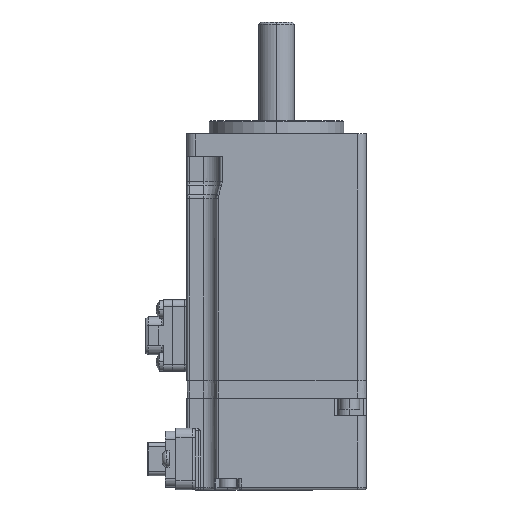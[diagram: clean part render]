
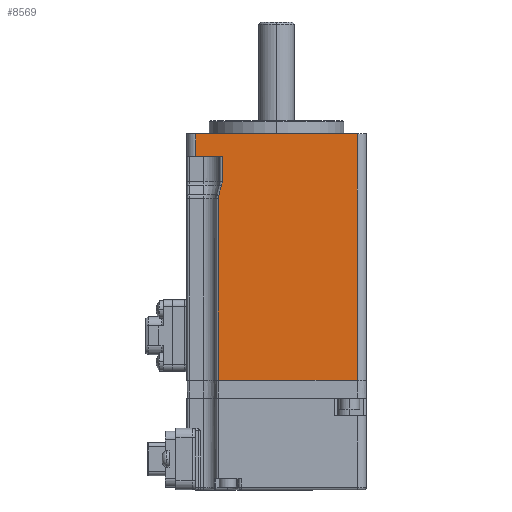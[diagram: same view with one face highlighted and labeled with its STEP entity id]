
A CAD part, top view. The second image highlights one B-rep face of the part: STEP entity #8569.
In plain terms, the highlighted planar face has unit normal (0, 0, 1).
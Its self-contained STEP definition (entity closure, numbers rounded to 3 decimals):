
#257 = VERTEX_POINT ( 'NONE', #25283 ) ;
#404 = DIRECTION ( 'NONE',  ( 0., 0., 1. ) ) ;
#775 = CARTESIAN_POINT ( 'NONE',  ( -15.663, 44.412, 20. ) ) ;
#1084 = VERTEX_POINT ( 'NONE', #19523 ) ;
#1114 = EDGE_CURVE ( 'NONE', #21793, #18379, #3818, .T. ) ;
#1160 = DIRECTION ( 'NONE',  ( 0., 0., -1. ) ) ;
#1333 = EDGE_CURVE ( 'NONE', #25282, #21793, #11150, .T. ) ;
#1349 = CARTESIAN_POINT ( 'NONE',  ( -13., 58., 20. ) ) ;
#1576 = EDGE_CURVE ( 'NONE', #3487, #8280, #22182, .T. ) ;
#2234 = CARTESIAN_POINT ( 'NONE',  ( -8.935, 55.462, 20. ) ) ;
#2256 = VERTEX_POINT ( 'NONE', #5913 ) ;
#2361 = DIRECTION ( 'NONE',  ( -0.27, -0.963, 0. ) ) ;
#2586 = DIRECTION ( 'NONE',  ( -1., 0., 0. ) ) ;
#3168 = VECTOR ( 'NONE', #6022, 1000. ) ;
#3487 = VERTEX_POINT ( 'NONE', #14642 ) ;
#3673 = EDGE_CURVE ( 'NONE', #19776, #1084, #4173, .T. ) ;
#3818 = LINE ( 'NONE', #5630, #20450 ) ;
#4147 = DIRECTION ( 'NONE',  ( -1., 0., 0. ) ) ;
#4173 = LINE ( 'NONE', #2234, #9915 ) ;
#4390 = LINE ( 'NONE', #14052, #9370 ) ;
#5298 = EDGE_CURVE ( 'NONE', #2256, #3487, #23959, .T. ) ;
#5630 = CARTESIAN_POINT ( 'NONE',  ( -18., 0., 20. ) ) ;
#5913 = CARTESIAN_POINT ( 'NONE',  ( 18., 55., 20. ) ) ;
#6022 = DIRECTION ( 'NONE',  ( 0., -1., 0. ) ) ;
#6265 = ORIENTED_EDGE ( 'NONE', *, *, #12629, .T. ) ;
#6545 = ORIENTED_EDGE ( 'NONE', *, *, #1114, .T. ) ;
#7081 = DIRECTION ( 'NONE',  ( -1., 0., 0. ) ) ;
#7148 = CARTESIAN_POINT ( 'NONE',  ( -18., 58., 20. ) ) ;
#7278 = DIRECTION ( 'NONE',  ( 0., 0., -1. ) ) ;
#7280 = DIRECTION ( 'NONE',  ( 0., -1., 0. ) ) ;
#7585 = LINE ( 'NONE', #25218, #3168 ) ;
#7702 = CIRCLE ( 'NONE', #22066, 3.5 ) ;
#7981 = CARTESIAN_POINT ( 'NONE',  ( -13., 0., 20. ) ) ;
#8271 = CARTESIAN_POINT ( 'NONE',  ( -18., 55., 20. ) ) ;
#8280 = VERTEX_POINT ( 'NONE', #9998 ) ;
#8569 = ADVANCED_FACE ( 'NONE', ( #15260 ), #21039, .F. ) ;
#8987 = VECTOR ( 'NONE', #7280, 1000. ) ;
#9370 = VECTOR ( 'NONE', #12256, 1000. ) ;
#9915 = VECTOR ( 'NONE', #2361, 1000. ) ;
#9995 = DIRECTION ( 'NONE',  ( 1., 0., 0. ) ) ;
#9998 = CARTESIAN_POINT ( 'NONE',  ( -18., 50., 20. ) ) ;
#10100 = ORIENTED_EDGE ( 'NONE', *, *, #3673, .T. ) ;
#10158 = CARTESIAN_POINT ( 'NONE',  ( -12.293, 43.468, 20. ) ) ;
#10365 = ORIENTED_EDGE ( 'NONE', *, *, #24354, .T. ) ;
#10895 = CARTESIAN_POINT ( 'NONE',  ( -12.163, 44.412, 20. ) ) ;
#11150 = LINE ( 'NONE', #1349, #8987 ) ;
#11151 = EDGE_CURVE ( 'NONE', #2256, #18379, #7585, .T. ) ;
#11427 = ORIENTED_EDGE ( 'NONE', *, *, #5298, .T. ) ;
#12256 = DIRECTION ( 'NONE',  ( 0., -1., 0. ) ) ;
#12629 = EDGE_CURVE ( 'NONE', #12928, #19776, #7702, .T. ) ;
#12921 = ORIENTED_EDGE ( 'NONE', *, *, #11151, .F. ) ;
#12928 = VERTEX_POINT ( 'NONE', #10895 ) ;
#14052 = CARTESIAN_POINT ( 'NONE',  ( -12.163, 44.412, 20. ) ) ;
#14210 = CARTESIAN_POINT ( 'NONE',  ( -18., 58., 20. ) ) ;
#14642 = CARTESIAN_POINT ( 'NONE',  ( -18., 55., 20. ) ) ;
#14760 = CARTESIAN_POINT ( 'NONE',  ( -13., 40.6, 20. ) ) ;
#14815 = CARTESIAN_POINT ( 'NONE',  ( 18., 0., 20. ) ) ;
#15260 = FACE_OUTER_BOUND ( 'NONE', #21301, .T. ) ;
#16565 = VECTOR ( 'NONE', #4147, 1000. ) ;
#16734 = ORIENTED_EDGE ( 'NONE', *, *, #18945, .T. ) ;
#17839 = CARTESIAN_POINT ( 'NONE',  ( -18., 50., 20. ) ) ;
#18051 = CARTESIAN_POINT ( 'NONE',  ( -10.5, 40.6, 20. ) ) ;
#18379 = VERTEX_POINT ( 'NONE', #14815 ) ;
#18945 = EDGE_CURVE ( 'NONE', #8280, #257, #22207, .T. ) ;
#19227 = VECTOR ( 'NONE', #24108, 1000. ) ;
#19523 = CARTESIAN_POINT ( 'NONE',  ( -12.907, 41.274, 20. ) ) ;
#19694 = AXIS2_PLACEMENT_3D ( 'NONE', #18051, #404, #2586 ) ;
#19776 = VERTEX_POINT ( 'NONE', #10158 ) ;
#20255 = ORIENTED_EDGE ( 'NONE', *, *, #1333, .T. ) ;
#20450 = VECTOR ( 'NONE', #25450, 1000. ) ;
#21008 = ORIENTED_EDGE ( 'NONE', *, *, #1576, .T. ) ;
#21039 = PLANE ( 'NONE',  #24440 ) ;
#21301 = EDGE_LOOP ( 'NONE', ( #16734, #21439, #6265, #10100, #10365, #20255, #6545, #12921, #11427, #21008 ) ) ;
#21418 = EDGE_CURVE ( 'NONE', #257, #12928, #4390, .T. ) ;
#21439 = ORIENTED_EDGE ( 'NONE', *, *, #21418, .T. ) ;
#21584 = VECTOR ( 'NONE', #9995, 1000. ) ;
#21793 = VERTEX_POINT ( 'NONE', #7981 ) ;
#22066 = AXIS2_PLACEMENT_3D ( 'NONE', #775, #1160, #7081 ) ;
#22182 = LINE ( 'NONE', #14210, #19227 ) ;
#22207 = LINE ( 'NONE', #17839, #21584 ) ;
#22978 = DIRECTION ( 'NONE',  ( -1., 0., 0. ) ) ;
#23959 = LINE ( 'NONE', #8271, #16565 ) ;
#24108 = DIRECTION ( 'NONE',  ( 0., -1., 0. ) ) ;
#24354 = EDGE_CURVE ( 'NONE', #1084, #25282, #25454, .T. ) ;
#24440 = AXIS2_PLACEMENT_3D ( 'NONE', #7148, #7278, #22978 ) ;
#25218 = CARTESIAN_POINT ( 'NONE',  ( 18., 58., 20. ) ) ;
#25282 = VERTEX_POINT ( 'NONE', #14760 ) ;
#25283 = CARTESIAN_POINT ( 'NONE',  ( -12.163, 50., 20. ) ) ;
#25450 = DIRECTION ( 'NONE',  ( 1., 0., 0. ) ) ;
#25454 = CIRCLE ( 'NONE', #19694, 2.5 ) ;
